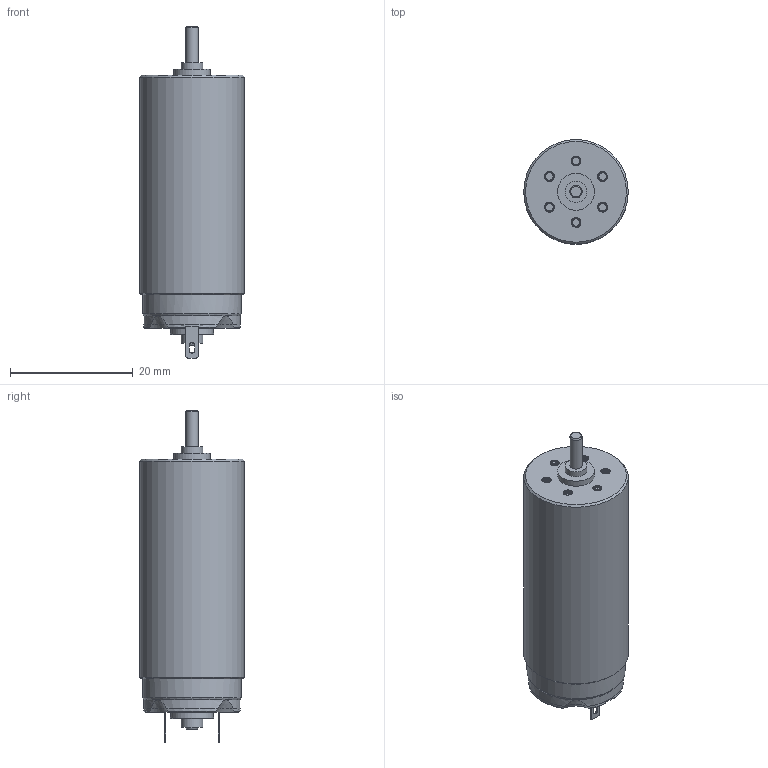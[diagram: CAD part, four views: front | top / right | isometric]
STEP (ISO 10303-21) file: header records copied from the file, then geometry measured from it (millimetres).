
FILE_DESCRIPTION(/* description */ (''),/* implementation_level */ '2;1');
FILE_NAME(/* name */ '1741_CXR.stp',/* time_stamp */ '2012-04-04T10:03:53+02:00',/* author */ ('DR. FRITZ FAULHABER GmbH & Co. KG'),/* organization */ ('DR. FRITZ FAULHABER GmbH & Co. KG'),/* preprocessor_version */ 'ST-DEVELOPER v11',/* originating_system */ 'SIEMENS PLM Software NX 7.5',/* authorisation */ '');
FILE_SCHEMA (('AUTOMOTIVE_DESIGN { 1 0 10303 214 1 1 1 1 }'));
Length unit declared in the file: millimetre
Products named in the file (1): 1741_CXR
Bounding box: 17 x 17 x 54 mm (x, y, z)
Volume: 9244.8 mm3; surface area: 2979.6 mm2
Topology: 1 solids, 1 shells, 149 faces, 369 edges, 242 vertices
Faces by surface type: plane 62, cylinder 46, cone 23, bspline 18
Full cylindrical faces by diameter (mm): 1.3 x3, 2 x2, 3.5 x2, 6 x1, 7 x1, 13.85 x1, 16 x1, 17 x1
Entity records: 20948 total; most frequent: CARTESIAN_POINT 17614, ORIENTED_EDGE 692, DIRECTION 622, EDGE_CURVE 346, AXIS2_PLACEMENT_3D 248, VERTEX_POINT 240, EDGE_LOOP 194, ADVANCED_FACE 149
